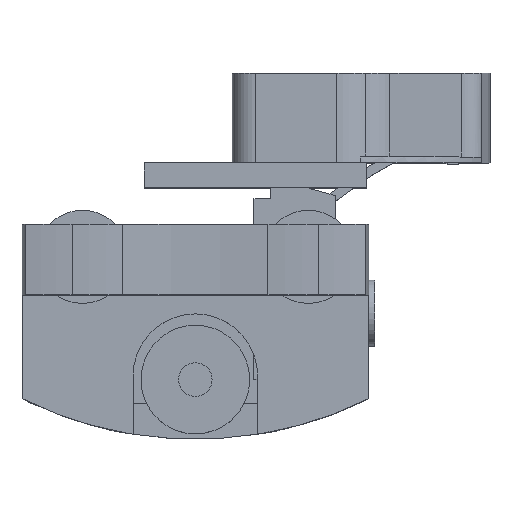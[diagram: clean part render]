
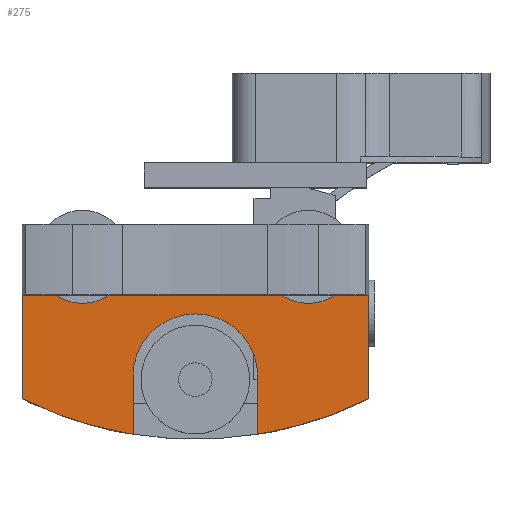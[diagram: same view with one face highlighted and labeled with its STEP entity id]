
A CAD part, top view. The second image highlights one B-rep face of the part: STEP entity #275.
In plain terms, the highlighted planar face has unit normal (0, 0, 1).
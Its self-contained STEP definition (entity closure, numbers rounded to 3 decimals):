
#275 = ADVANCED_FACE( '', ( #757 ), #758, .T. );
#757 = FACE_OUTER_BOUND( '', #1290, .T. );
#758 = PLANE( '', #1291 );
#1290 = EDGE_LOOP( '', ( #3143, #3144, #3145, #3146, #3147, #3148, #3149, #3150, #3151, #3152 ) );
#1291 = AXIS2_PLACEMENT_3D( '', #3153, #3154, #3155 );
#3143 = ORIENTED_EDGE( '', *, *, #4096, .T. );
#3144 = ORIENTED_EDGE( '', *, *, #4079, .T. );
#3145 = ORIENTED_EDGE( '', *, *, #4083, .T. );
#3146 = ORIENTED_EDGE( '', *, *, #4102, .F. );
#3147 = ORIENTED_EDGE( '', *, *, #4103, .T. );
#3148 = ORIENTED_EDGE( '', *, *, #4104, .F. );
#3149 = ORIENTED_EDGE( '', *, *, #4105, .T. );
#3150 = ORIENTED_EDGE( '', *, *, #4106, .T. );
#3151 = ORIENTED_EDGE( '', *, *, #4107, .T. );
#3152 = ORIENTED_EDGE( '', *, *, #4108, .F. );
#3153 = CARTESIAN_POINT( '', ( 22.25, 2.05, 9.145 ) );
#3154 = DIRECTION( '', ( 0., 0., 1. ) );
#3155 = DIRECTION( '', ( 0., 1., 0. ) );
#4079 = EDGE_CURVE( '', #5171, #5169, #5172, .T. );
#4083 = EDGE_CURVE( '', #5169, #5176, #5178, .T. );
#4096 = EDGE_CURVE( '', #5197, #5171, #5198, .T. );
#4102 = EDGE_CURVE( '', #5207, #5176, #5208, .T. );
#4103 = EDGE_CURVE( '', #5207, #5209, #5210, .T. );
#4104 = EDGE_CURVE( '', #5211, #5209, #5212, .T. );
#4105 = EDGE_CURVE( '', #5211, #5213, #5214, .T. );
#4106 = EDGE_CURVE( '', #5213, #5215, #5216, .T. );
#4107 = EDGE_CURVE( '', #5215, #5217, #5218, .T. );
#4108 = EDGE_CURVE( '', #5197, #5217, #5219, .T. );
#5169 = VERTEX_POINT( '', #6816 );
#5171 = VERTEX_POINT( '', #6819 );
#5172 = CIRCLE( '', #6820, 8. );
#5176 = VERTEX_POINT( '', #6826 );
#5178 = LINE( '', #6829, #6830 );
#5197 = VERTEX_POINT( '', #6859 );
#5198 = LINE( '', #6860, #6861 );
#5207 = VERTEX_POINT( '', #6874 );
#5208 = LINE( '', #6875, #6876 );
#5209 = VERTEX_POINT( '', #6877 );
#5210 = CIRCLE( '', #6878, 50. );
#5211 = VERTEX_POINT( '', #6879 );
#5212 = LINE( '', #6880, #6881 );
#5213 = VERTEX_POINT( '', #6882 );
#5214 = LINE( '', #6883, #6884 );
#5215 = VERTEX_POINT( '', #6885 );
#5216 = LINE( '', #6886, #6887 );
#5217 = VERTEX_POINT( '', #6888 );
#5218 = CIRCLE( '', #6889, 50. );
#5219 = LINE( '', #6890, #6891 );
#6816 = CARTESIAN_POINT( '', ( 8., -8.35, 9.145 ) );
#6819 = CARTESIAN_POINT( '', ( -8., -8.35, 9.145 ) );
#6820 = AXIS2_PLACEMENT_3D( '', #8234, #8235, #8236 );
#6826 = CARTESIAN_POINT( '', ( 8., -15.716, 9.145 ) );
#6829 = CARTESIAN_POINT( '', ( 8., -7.475, 9.145 ) );
#6830 = VECTOR( '', #8240, 1. );
#6859 = CARTESIAN_POINT( '', ( -8., -15.716, 9.145 ) );
#6860 = CARTESIAN_POINT( '', ( -8., -3.15, 9.145 ) );
#6861 = VECTOR( '', #8257, 1. );
#6874 = CARTESIAN_POINT( '', ( 8.536, -15.716, 9.145 ) );
#6875 = CARTESIAN_POINT( '', ( 22.25, -15.716, 9.145 ) );
#6876 = VECTOR( '', #8265, 1. );
#6877 = CARTESIAN_POINT( '', ( 22.25, -11.227, 9.145 ) );
#6878 = AXIS2_PLACEMENT_3D( '', #8266, #8267, #8268 );
#6879 = CARTESIAN_POINT( '', ( 22.25, 2.05, 9.145 ) );
#6880 = CARTESIAN_POINT( '', ( 22.25, 2.05, 9.145 ) );
#6881 = VECTOR( '', #8269, 1. );
#6882 = CARTESIAN_POINT( '', ( -22.25, 2.05, 9.145 ) );
#6883 = CARTESIAN_POINT( '', ( 22.25, 2.05, 9.145 ) );
#6884 = VECTOR( '', #8270, 1. );
#6885 = CARTESIAN_POINT( '', ( -22.25, -11.227, 9.145 ) );
#6886 = CARTESIAN_POINT( '', ( -22.25, 2.05, 9.145 ) );
#6887 = VECTOR( '', #8271, 1. );
#6888 = CARTESIAN_POINT( '', ( -8.536, -15.716, 9.145 ) );
#6889 = AXIS2_PLACEMENT_3D( '', #8272, #8273, #8274 );
#6890 = CARTESIAN_POINT( '', ( 22.25, -15.716, 9.145 ) );
#6891 = VECTOR( '', #8275, 1. );
#8234 = CARTESIAN_POINT( '', ( 0., -8.35, 9.145 ) );
#8235 = DIRECTION( '', ( 0., 0., -1. ) );
#8236 = DIRECTION( '', ( 1., 0., 0. ) );
#8240 = DIRECTION( '', ( 0., -1., 0. ) );
#8257 = DIRECTION( '', ( 0., 1., 0. ) );
#8265 = DIRECTION( '', ( -1., 0., 0. ) );
#8266 = CARTESIAN_POINT( '', ( 0., 33.55, 9.145 ) );
#8267 = DIRECTION( '', ( 0., 0., 1. ) );
#8268 = DIRECTION( '', ( -0.445, -0.896, 0. ) );
#8269 = DIRECTION( '', ( 0., -1., 0. ) );
#8270 = DIRECTION( '', ( -1., 0., 0. ) );
#8271 = DIRECTION( '', ( 0., -1., 0. ) );
#8272 = CARTESIAN_POINT( '', ( 0., 33.55, 9.145 ) );
#8273 = DIRECTION( '', ( 0., 0., 1. ) );
#8274 = DIRECTION( '', ( -0.445, -0.896, 0. ) );
#8275 = DIRECTION( '', ( -1., 0., 0. ) );
